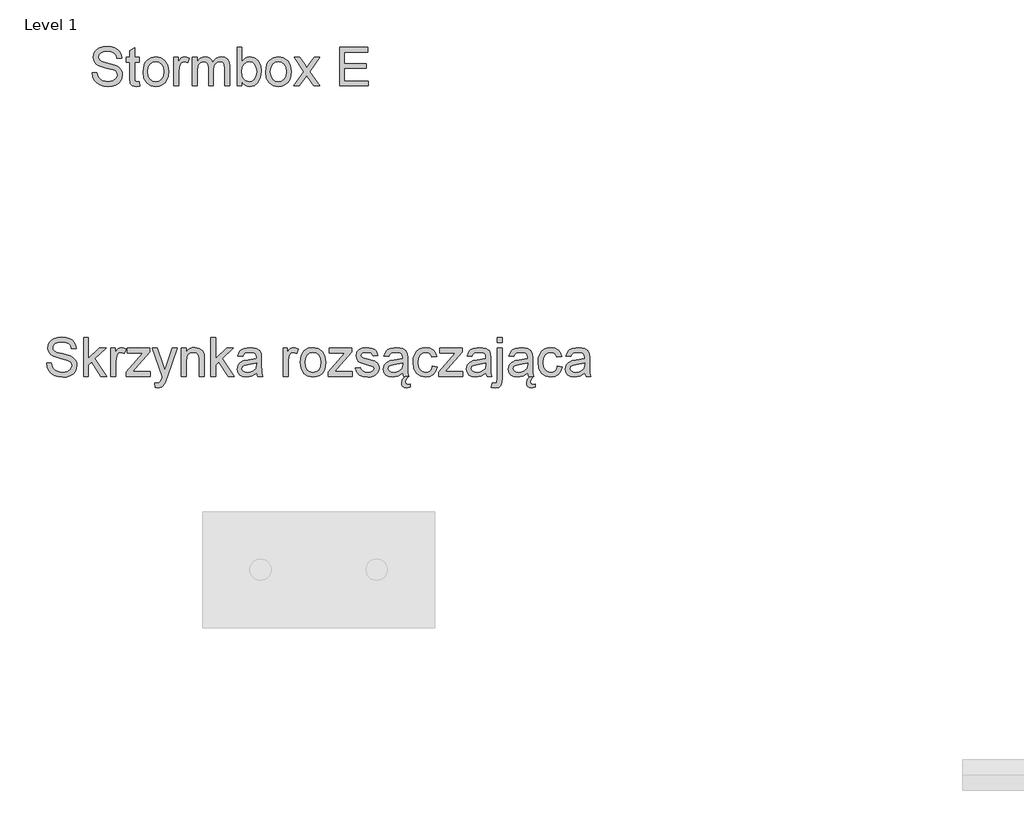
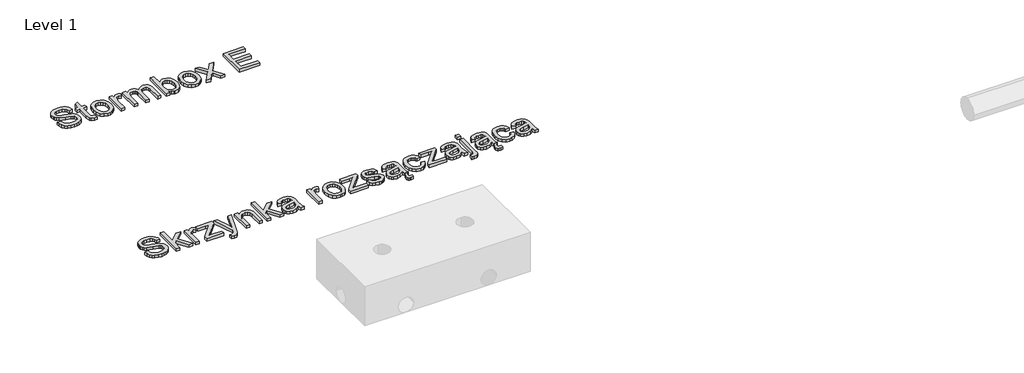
# One storey, part 5 of 5: 2 proxies.
"""IFC4 building model written with IfcOpenShell, lengths in millimetres."""

from ifc_helpers import new_model, si_unit, origin, origin_with_axes, place, context, project, spatial, polyline, outline, extrude, element, save

model = new_model("IFC4")

# Units and contexts
model_context = context("Model", 3, world=origin())
ifc_project = project(units=[si_unit("LENGTHUNIT", "METRE", prefix="MILLI")], contexts=[model_context])

# Site, building, storey
site = spatial("IfcSite", under=ifc_project)
building = spatial("IfcBuilding", under=site)
storey = spatial("IfcBuildingStorey", under=building, Name="Level 1", Elevation=0.0)

# Proxies
placement = place(None, origin())
element("IfcBuildingElementProxy", 1, Name="200mm Arial", ObjectType="200mm Arial", at=placement, inside=storey, context=model_context, shape_type="SweptSolid", body=[
    extrude(outline(polyline([(-7340.1100864, 955.1141403), (-7314.9960089, 955.1141403), (-7306.902605, 929.9755373), (-7298.7724129, 921.0850557), (-7287.1350791, 914.0830351), (-7272.9103087, 909.5396924), (-7257.0178065, 908.0252449), (-7230.7755575, 912.6115071), (-7213.8284602, 925.2175968), (-7208.2611794, 942.0665922), (-7212.4305087, 957.7383652), (-7218.7826044, 963.9371768), (-7229.5002332, 969.142707), (-7266.0677036, 978.7321644), (-7305.431077, 991.1175249), (-7317.9329335, 999.566548), (-7326.7927582, 1009.8059302), (-7332.0718649, 1021.6149423), (-7333.8315671, 1034.772855), (-7331.6549319, 1049.4820034), (-7325.1250265, 1063.1978705), (-7314.4135291, 1074.8229415), (-7299.6921179, 1083.2597019), (-7282.0215194, 1088.3916558), (-7262.46246, 1090.102307), (-7241.2724571, 1088.311948), (-7222.7312045, 1082.9408709), (-7207.5008899, 1074.0994402), (-7196.2437009, 1061.8980207), (-7189.1190529, 1047.0969018), (-7186.2863615, 1030.4563729), (-7211.4004391, 1030.4563729), (-7216.0112267, 1045.4414328), (-7225.6252095, 1056.2571635), (-7240.6470577, 1062.805463), (-7261.4814413, 1064.9882295), (-7282.8063343, 1062.8299885), (-7297.435775, 1056.3552653), (-7305.8970609, 1046.8271217), (-7308.7174895, 1035.508619), (-7306.718664, 1025.8578479), (-7300.7221875, 1018.0955378), (-7286.5464679, 1011.1548309), (-7259.7156078, 1004.0669711), (-7215.2754628, 991.4608814), (-7200.9587218, 982.3496707), (-7190.9707256, 971.1047443), (-7185.1030078, 957.8487298), (-7183.1471018, 942.7042543), (-7185.3973134, 927.2225537), (-7192.147948, 912.660558), (-7203.1230942, 900.1280447), (-7218.0468404, 890.7347911), (-7235.9933504, 884.8670733), (-7256.0367878, 882.9111674), (-7280.6419619, 885.0203575), (-7300.8938658, 891.3479278), (-7317.0254912, 901.9184038), (-7329.2698303, 916.7563109), (-7337.1302423, 934.8315796), (-7340.1100864, 955.1141403)])), origin_with_axes(), (0.0, 0.0, 1.0), 20.0),
    extrude(outline(polyline([(-7148.6152452, 886.050427), (-7148.6152452, 1086.9630473), (-7123.5011677, 1086.9630473), (-7123.5011677, 979.0019445), (-7067.190697, 1033.5956326), (-7032.4626366, 1033.5956326), (-7089.4598204, 978.3152314), (-7029.3233769, 886.050427), (-7058.6558347, 886.050427), (-7107.4615127, 960.8530994), (-7123.5011677, 945.3039537), (-7123.5011677, 886.050427), (-7148.6152452, 886.050427)])), origin_with_axes(), (0.0, 0.0, 1.0), 20.0),
    extrude(outline(polyline([(-7007.3485591, 886.050427), (-7007.3485591, 1033.5956326), (-6985.3737412, 1033.5956326), (-6985.3737412, 1011.7679675), (-6969.7755446, 1031.8788499), (-6954.0792462, 1036.7348923), (-6941.5712583, 1034.7973804), (-6928.8670668, 1028.9848449), (-6937.2547763, 1006.4704668), (-6954.913112, 1011.6208147), (-6969.113357, 1006.6666705), (-6978.1632541, 992.9324094), (-6982.2344815, 963.5999516), (-6982.2344815, 886.050427), (-7007.3485591, 886.050427)])), origin_with_axes(), (0.0, 0.0, 1.0), 20.0),
    extrude(outline(polyline([(-6928.8670668, 886.050427), (-6928.8670668, 909.6929766), (-6842.1940687, 1008.481555), (-6867.8477065, 1008.481555), (-6922.5885474, 1008.481555), (-6922.5885474, 1033.5956326), (-6806.4359388, 1033.5956326), (-6806.4359388, 1012.2584769), (-6883.2987503, 924.6044601), (-6895.0709741, 911.1645046), (-6866.032822, 911.1645046), (-6803.2966791, 911.1645046), (-6803.2966791, 886.050427), (-6928.8670668, 886.050427)])), origin_with_axes(), (0.0, 0.0, 1.0), 20.0),
    extrude(outline(polyline([(-6778.1826015, 829.5437526), (-6781.3218612, 853.7258624), (-6768.5686187, 851.5185704), (-6756.6492421, 854.2899481), (-6749.3406531, 862.01547), (-6742.4735225, 880.5076717), (-6740.5114852, 886.5899873), (-6793.8789, 1033.5956326), (-6767.3913964, 1033.5956326), (-6739.0890082, 951.680575), (-6729.2297707, 918.9145519), (-6719.3705333, 947.8546022), (-6690.2833302, 1033.5956326), (-6663.9920302, 1033.5956326), (-6715.3483568, 882.5187599), (-6728.6902105, 849.7527369), (-6743.2583375, 832.0453502), (-6762.8296596, 826.4044929), (-6778.1826015, 829.5437526)])), origin_with_axes(), (0.0, 0.0, 1.0), 20.0),
    extrude(outline(polyline([(-6643.1944348, 886.050427), (-6643.1944348, 1033.5956326), (-6618.0803572, 1033.5956326), (-6618.0803572, 1012.9942408), (-6609.3554226, 1023.3807758), (-6598.8769171, 1030.7997294), (-6586.6448408, 1035.2511016), (-6572.6591936, 1036.7348923), (-6548.9430676, 1031.9524263), (-6532.7562598, 1019.3953876), (-6525.2269417, 1000.9277114), (-6523.9025665, 976.6474997), (-6523.9025665, 886.050427), (-6549.016644, 886.050427), (-6549.016644, 973.2629854), (-6551.910649, 995.4830579), (-6562.1377685, 1007.2307563), (-6579.3791714, 1011.6208147), (-6594.0883198, 1009.1560054), (-6606.6269645, 1001.7615773), (-6615.2170091, 987.4754931), (-6618.0803572, 964.3357156), (-6618.0803572, 886.050427), (-6643.1944348, 886.050427)])), origin_with_axes(), (0.0, 0.0, 1.0), 20.0),
    extrude(outline(polyline([(-6489.3707099, 886.050427), (-6489.3707099, 1086.9630473), (-6464.2566323, 1086.9630473), (-6464.2566323, 979.0019445), (-6407.9461616, 1033.5956326), (-6373.2181013, 1033.5956326), (-6430.215285, 978.3152314), (-6370.0788416, 886.050427), (-6399.4112993, 886.050427), (-6448.2169773, 960.8530994), (-6464.2566323, 945.3039537), (-6464.2566323, 886.050427), (-6489.3707099, 886.050427)])), origin_with_axes(), (0.0, 0.0, 1.0), 20.0),
    extrude(outline(polyline([(-6253.926233, 904.8859852), (-6278.280021, 887.8653116), (-6305.1844576, 882.9111674), (-6326.1721254, 885.8910115), (-6341.6538261, 894.830544), (-6351.2003638, 908.4053896), (-6354.3825431, 925.2911732), (-6349.5755517, 945.1568009), (-6336.9449365, 959.5777751), (-6319.3601772, 967.8183318), (-6297.630614, 971.5952537), (-6254.0733858, 980.2282178), (-6253.926233, 985.8200241), (-6255.6552783, 997.0281623), (-6260.8424145, 1004.3612767), (-6272.44296, 1009.8059302), (-6288.6052424, 1011.6208147), (-6303.5657768, 1010.4129355), (-6314.0136255, 1006.7892979), (-6321.1382735, 1000.0877142), (-6326.1292059, 989.6459969), (-6351.2432834, 992.7852566), (-6340.3785018, 1017.3107229), (-6331.1201383, 1025.5635424), (-6318.5017858, 1031.6826462), (-6285.3678808, 1036.7348923), (-6254.9317771, 1032.2712574), (-6237.7394252, 1021.0631193), (-6230.0384287, 1004.0179202), (-6228.8121554, 982.0431023), (-6228.8121554, 950.7976582), (-6227.5368312, 907.1668536), (-6222.533636, 886.050427), (-6247.6477136, 886.050427), (-6253.926233, 904.8859852)]), holes=[polyline([(-6253.926233, 955.1141403), (-6294.4423034, 947.4131438), (-6316.0492392, 943.3419164), (-6325.8349003, 936.7200405), (-6329.2684656, 927.0570068), (-6327.3983988, 919.5890023), (-6321.7881983, 913.4698984), (-6312.5604916, 909.3864083), (-6299.837906, 908.0252449), (-6286.3488995, 909.5274297), (-6274.4295228, 914.0339841), (-6258.0465113, 928.5775857), (-6254.0733858, 948.001755), (-6253.926233, 955.1141403)])]), origin_with_axes(), (0.0, 0.0, 1.0), 20.0),
    extrude(outline(polyline([(-6115.7988065, 886.050427), (-6115.7988065, 1033.5956326), (-6093.8239887, 1033.5956326), (-6093.8239887, 1011.7679675), (-6078.2257921, 1031.8788499), (-6062.5294936, 1036.7348923), (-6050.0215058, 1034.7973804), (-6037.3173142, 1028.9848449), (-6045.7050237, 1006.4704668), (-6063.3633595, 1011.6208147), (-6077.5636045, 1006.6666705), (-6086.6135015, 992.9324094), (-6090.684729, 963.5999516), (-6090.684729, 886.050427), (-6115.7988065, 886.050427)])), origin_with_axes(), (0.0, 0.0, 1.0), 20.0),
    extrude(outline(polyline([(-6027.8995351, 959.8230298), (-6022.4671443, 995.3972187), (-6015.6766558, 1009.2203847), (-6006.1699719, 1020.4009317), (-5986.0345641, 1032.6514021), (-5961.9260306, 1036.7348923), (-5935.5427602, 1031.762354), (-5914.4692533, 1016.8447391), (-5900.6552844, 993.1592699), (-5896.050628, 961.883169), (-5898.0862418, 936.5115741), (-5904.1930829, 917.1977693), (-5914.1933418, 902.7338755), (-5927.9092088, 891.9120135), (-5944.2002498, 885.1613789), (-5961.9260306, 882.9111674), (-5988.6281321, 887.8653116), (-6009.6771136, 902.7277442), (-6023.3439297, 926.909854), (-6027.8995351, 959.8230298)]), holes=[polyline([(-6002.7854576, 959.8720807), (-5999.8791898, 937.1431048), (-5991.1603865, 920.9501657), (-5978.039262, 911.2564751), (-5961.9260306, 908.0252449), (-5945.8863757, 911.2748692), (-5932.7897766, 921.0237421), (-5924.0709733, 937.431279), (-5921.1647056, 960.6568957), (-5924.0893674, 982.723684), (-5932.863353, 998.695894), (-5945.9783462, 1008.3895845), (-5961.9260306, 1011.6208147), (-5978.039262, 1008.4018473), (-5991.1603865, 998.7449449), (-5999.8791898, 982.5887939), (-6002.7854576, 959.8720807)])]), origin_with_axes(), (0.0, 0.0, 1.0), 20.0),
    extrude(outline(polyline([(-5883.4935893, 886.050427), (-5883.4935893, 909.6929766), (-5796.8205912, 1008.481555), (-5822.474229, 1008.481555), (-5877.2150699, 1008.481555), (-5877.2150699, 1033.5956326), (-5761.0624613, 1033.5956326), (-5761.0624613, 1012.2584769), (-5837.9252728, 924.6044601), (-5849.6974967, 911.1645046), (-5820.6593445, 911.1645046), (-5757.9232016, 911.1645046), (-5757.9232016, 886.050427), (-5883.4935893, 886.050427)])), origin_with_axes(), (0.0, 0.0, 1.0), 20.0),
    extrude(outline(polyline([(-5742.2269031, 930.0000627), (-5717.1128256, 933.1393224), (-5713.1519628, 922.3971682), (-5705.4877545, 914.499968), (-5694.07115, 909.6439257), (-5678.8530981, 908.0252449), (-5663.8189872, 909.5090356), (-5653.2485112, 913.9604077), (-5646.9945173, 920.4106054), (-5644.9098527, 927.8908726), (-5647.00678, 934.2920193), (-5653.2975622, 939.1725871), (-5679.1474037, 946.3340233), (-5716.9656728, 958.621282), (-5726.536736, 964.7955681), (-5733.4713116, 972.9686798), (-5739.0876434, 993.226715), (-5734.5749576, 1011.9396458), (-5722.2631735, 1026.2379927), (-5706.2970949, 1033.669209), (-5684.6901591, 1036.7348923), (-5654.131428, 1031.8052735), (-5642.7025607, 1026.0050007), (-5634.7072587, 1018.4634198), (-5626.0742945, 995.9245163), (-5651.1883721, 992.7852566), (-5654.3582886, 1000.6885881), (-5660.6306766, 1006.6421451), (-5682.7281218, 1011.6208147), (-5697.149096, 1010.4313296), (-5706.7630788, 1006.8628743), (-5712.1709441, 1001.7125263), (-5713.9735659, 995.7773635), (-5710.981459, 988.4687745), (-5701.6127309, 982.9260191), (-5679.9812695, 977.5794674), (-5643.1194936, 965.7581927), (-5626.0007181, 952.367288), (-5621.3470109, 942.5203133), (-5619.7957751, 930.539623), (-5621.616791, 918.1542625), (-5627.0798386, 906.504666), (-5635.9764516, 896.5044071), (-5648.0981633, 889.0670594), (-5662.7398667, 884.4501404), (-5679.1964546, 882.9111674), (-5704.5189986, 885.8787488), (-5722.9989375, 894.7814931), (-5735.3352471, 909.5212983), (-5742.2269031, 930.0000627)])), origin_with_axes(), (0.0, 0.0, 1.0), 20.0),
    extrude(outline(polyline([(-5468.4245969, 886.050427), (-5480.5156518, 873.9103212), (-5484.8076084, 859.2686178), (-5481.7419251, 849.3112785), (-5471.8091112, 845.240051), (-5465.5305918, 846.1229678), (-5459.6935308, 848.4774126), (-5459.6935308, 831.1624334), (-5477.3028157, 826.4044929), (-5488.8543103, 828.4155811), (-5497.094867, 833.9583365), (-5502.0244857, 842.0762659), (-5503.6431665, 851.9109779), (-5498.7380733, 869.7409919), (-5484.8566593, 886.050427), (-5468.4245969, 886.050427)])), origin_with_axes(), (0.0, 0.0, 1.0), 20.0),
    extrude(outline(polyline([(-5497.3646471, 904.8859852), (-5521.7184352, 887.8653116), (-5548.6228718, 882.9111674), (-5569.6105396, 885.8910115), (-5585.0922403, 894.830544), (-5594.638778, 908.4053896), (-5597.8209573, 925.2911732), (-5593.0139659, 945.1568009), (-5580.3833507, 959.5777751), (-5562.7985913, 967.8183318), (-5541.0690282, 971.5952537), (-5497.5117999, 980.2282178), (-5497.3646471, 985.8200241), (-5499.0936925, 997.0281623), (-5504.2808286, 1004.3612767), (-5515.8813742, 1009.8059302), (-5532.0436566, 1011.6208147), (-5547.004191, 1010.4129355), (-5557.4520397, 1006.7892979), (-5564.5766877, 1000.0877142), (-5569.5676201, 989.6459969), (-5594.6816976, 992.7852566), (-5583.816916, 1017.3107229), (-5574.5585525, 1025.5635424), (-5561.9402, 1031.6826462), (-5528.806295, 1036.7348923), (-5498.3701913, 1032.2712574), (-5481.1778394, 1021.0631193), (-5473.4768429, 1004.0179202), (-5472.2505696, 982.0431023), (-5472.2505696, 950.7976582), (-5470.9752454, 907.1668536), (-5465.9720502, 886.050427), (-5491.0861278, 886.050427), (-5497.3646471, 904.8859852)]), holes=[polyline([(-5497.3646471, 955.1141403), (-5537.8807175, 947.4131438), (-5559.4876534, 943.3419164), (-5569.2733145, 936.7200405), (-5572.7068798, 927.0570068), (-5570.8368129, 919.5890023), (-5565.2266125, 913.4698984), (-5555.9989058, 909.3864083), (-5543.2763201, 908.0252449), (-5529.7873136, 909.5274297), (-5517.867937, 914.0339841), (-5501.4849255, 928.5775857), (-5497.5117999, 948.001755), (-5497.3646471, 955.1141403)])]), origin_with_axes(), (0.0, 0.0, 1.0), 20.0),
    extrude(outline(polyline([(-5343.5409222, 939.4178418), (-5318.4268447, 936.2785821), (-5325.4288653, 913.9420136), (-5338.586778, 897.0623614), (-5356.6620467, 886.4489659), (-5378.4161354, 882.9111674), (-5405.1304996, 887.8469175), (-5426.0200655, 902.6541678), (-5439.5029407, 926.6829934), (-5443.9972324, 959.2834696), (-5442.0781146, 981.6323008), (-5436.3207614, 1001.0012878), (-5426.6332022, 1016.642404), (-5412.9234665, 1027.8076225), (-5396.5220609, 1034.5030748), (-5378.7594919, 1036.7348923), (-5357.5388321, 1033.669209), (-5340.5733408, 1024.4721591), (-5328.4025781, 1009.634252), (-5321.5661044, 989.6459969), (-5346.6801819, 986.5067372), (-5351.2357873, 997.4634893), (-5358.3297784, 1005.3177699), (-5367.5697479, 1010.0450535), (-5378.5632882, 1011.6208147), (-5394.7930155, 1008.5183432), (-5407.6750167, 999.2109288), (-5416.0811203, 983.1957992), (-5418.8831548, 959.9701826), (-5416.142434, 936.4318663), (-5407.9202714, 920.3615545), (-5395.2712621, 911.1093223), (-5379.2500012, 908.0252449), (-5366.2453727, 909.950494), (-5355.5829262, 915.7262413), (-5347.8267475, 925.4996397), (-5343.5409222, 939.4178418)])), origin_with_axes(), (0.0, 0.0, 1.0), 20.0),
    extrude(outline(polyline([(-5312.1483253, 886.050427), (-5312.1483253, 909.6929766), (-5225.4753272, 1008.481555), (-5251.128965, 1008.481555), (-5305.8698059, 1008.481555), (-5305.8698059, 1033.5956326), (-5189.7171973, 1033.5956326), (-5189.7171973, 1012.2584769), (-5266.5800088, 924.6044601), (-5278.3522327, 911.1645046), (-5249.3140805, 911.1645046), (-5186.5779376, 911.1645046), (-5186.5779376, 886.050427), (-5312.1483253, 886.050427)])), origin_with_axes(), (0.0, 0.0, 1.0), 20.0),
    extrude(outline(polyline([(-5067.2860693, 904.8859852), (-5091.6398574, 887.8653116), (-5118.544294, 882.9111674), (-5139.5319618, 885.8910115), (-5155.0136624, 894.830544), (-5164.5602002, 908.4053896), (-5167.7423795, 925.2911732), (-5162.9353881, 945.1568009), (-5150.3047729, 959.5777751), (-5132.7200135, 967.8183318), (-5110.9904503, 971.5952537), (-5067.4332221, 980.2282178), (-5067.2860693, 985.8200241), (-5069.0151147, 997.0281623), (-5074.2022508, 1004.3612767), (-5085.8027964, 1009.8059302), (-5101.9650787, 1011.6208147), (-5116.9256132, 1010.4129355), (-5127.3734619, 1006.7892979), (-5134.4981098, 1000.0877142), (-5139.4890422, 989.6459969), (-5164.6031198, 992.7852566), (-5153.7383382, 1017.3107229), (-5144.4799746, 1025.5635424), (-5131.8616222, 1031.6826462), (-5098.7277172, 1036.7348923), (-5068.2916134, 1032.2712574), (-5051.0992615, 1021.0631193), (-5043.3982651, 1004.0179202), (-5042.1719918, 982.0431023), (-5042.1719918, 950.7976582), (-5040.8966675, 907.1668536), (-5035.8934724, 886.050427), (-5061.0075499, 886.050427), (-5067.2860693, 904.8859852)]), holes=[polyline([(-5067.2860693, 955.1141403), (-5107.8021397, 947.4131438), (-5129.4090756, 943.3419164), (-5139.1947366, 936.7200405), (-5142.6283019, 927.0570068), (-5140.7582351, 919.5890023), (-5135.1480347, 913.4698984), (-5125.920328, 909.3864083), (-5113.1977423, 908.0252449), (-5099.7087358, 909.5274297), (-5087.7893592, 914.0339841), (-5071.4063477, 928.5775857), (-5067.4332221, 948.001755), (-5067.2860693, 955.1141403)])]), origin_with_axes(), (0.0, 0.0, 1.0), 20.0),
    extrude(outline(polyline([(-5039.2779867, 829.4456507), (-5033.980486, 853.3334549), (-5022.4535168, 851.5185704), (-5011.2944296, 856.4972401), (-5007.6401352, 881.3905884), (-5007.6401352, 1033.5956326), (-4982.5260576, 1033.5956326), (-4982.5260576, 878.1532269), (-4984.3041539, 855.0992885), (-4989.6384429, 840.2859068), (-5001.6559214, 829.8748464), (-5019.6576137, 826.4044929), (-5039.2779867, 829.4456507)])), origin_with_axes(), (0.0, 0.0, 1.0), 20.0),
    extrude(outline(polyline([(-5007.6401352, 1061.8489698), (-5007.6401352, 1086.9630473), (-4982.5260576, 1086.9630473), (-4982.5260576, 1061.8489698), (-5007.6401352, 1061.8489698)])), origin_with_axes(), (0.0, 0.0, 1.0), 20.0),
    extrude(outline(polyline([(-4850.6771506, 904.8859852), (-4875.0309386, 887.8653116), (-4901.9353752, 882.9111674), (-4922.923043, 885.8910115), (-4938.4047437, 894.830544), (-4947.9512814, 908.4053896), (-4951.1334607, 925.2911732), (-4946.3264693, 945.1568009), (-4933.6958541, 959.5777751), (-4916.1110948, 967.8183318), (-4894.3815316, 971.5952537), (-4850.8243034, 980.2282178), (-4850.6771506, 985.8200241), (-4852.4061959, 997.0281623), (-4857.5933321, 1004.3612767), (-4869.1938776, 1009.8059302), (-4885.35616, 1011.6208147), (-4900.3166944, 1010.4129355), (-4910.7645431, 1006.7892979), (-4917.8891911, 1000.0877142), (-4922.8801235, 989.6459969), (-4947.994201, 992.7852566), (-4937.1294194, 1017.3107229), (-4927.8710559, 1025.5635424), (-4915.2527034, 1031.6826462), (-4882.1187984, 1036.7348923), (-4851.6826947, 1032.2712574), (-4834.4903428, 1021.0631193), (-4826.7893463, 1004.0179202), (-4825.563073, 982.0431023), (-4825.563073, 950.7976582), (-4824.2877488, 907.1668536), (-4819.2845536, 886.050427), (-4844.3986312, 886.050427), (-4850.6771506, 904.8859852)]), holes=[polyline([(-4850.6771506, 955.1141403), (-4891.193221, 947.4131438), (-4912.8001568, 943.3419164), (-4922.5858179, 936.7200405), (-4926.0193832, 927.0570068), (-4924.1493164, 919.5890023), (-4918.5391159, 913.4698984), (-4909.3114092, 909.3864083), (-4896.5888236, 908.0252449), (-4883.0998171, 909.5274297), (-4871.1804404, 914.0339841), (-4854.7974289, 928.5775857), (-4850.8243034, 948.001755), (-4850.6771506, 955.1141403)])]), origin_with_axes(), (0.0, 0.0, 1.0), 20.0),
    extrude(outline(polyline([(-4821.7371003, 886.050427), (-4833.8281552, 873.9103212), (-4838.1201118, 859.2686178), (-4835.0544285, 849.3112785), (-4825.1216146, 845.240051), (-4818.8430952, 846.1229678), (-4813.0060342, 848.4774126), (-4813.0060342, 831.1624334), (-4830.6153191, 826.4044929), (-4842.1668137, 828.4155811), (-4850.4073704, 833.9583365), (-4855.3369892, 842.0762659), (-4856.9556699, 851.9109779), (-4852.0505767, 869.7409919), (-4838.1691627, 886.050427), (-4821.7371003, 886.050427)])), origin_with_axes(), (0.0, 0.0, 1.0), 20.0),
    extrude(outline(polyline([(-4696.8534256, 939.4178418), (-4671.7393481, 936.2785821), (-4678.7413687, 913.9420136), (-4691.8992814, 897.0623614), (-4709.9745501, 886.4489659), (-4731.7286388, 882.9111674), (-4758.443003, 887.8469175), (-4779.332569, 902.6541678), (-4792.8154441, 926.6829934), (-4797.3097358, 959.2834696), (-4795.390618, 981.6323008), (-4789.6332648, 1001.0012878), (-4779.9457056, 1016.642404), (-4766.2359699, 1027.8076225), (-4749.8345643, 1034.5030748), (-4732.0719953, 1036.7348923), (-4710.8513356, 1033.669209), (-4693.8858442, 1024.4721591), (-4681.7150815, 1009.634252), (-4674.8786078, 989.6459969), (-4699.9926853, 986.5067372), (-4704.5482907, 997.4634893), (-4711.6422818, 1005.3177699), (-4720.8822513, 1010.0450535), (-4731.8757916, 1011.6208147), (-4748.1055189, 1008.5183432), (-4760.9875201, 999.2109288), (-4769.3936237, 983.1957992), (-4772.1956582, 959.9701826), (-4769.4549374, 936.4318663), (-4761.2327748, 920.3615545), (-4748.5837655, 911.1093223), (-4732.5625046, 908.0252449), (-4719.5578761, 909.950494), (-4708.8954296, 915.7262413), (-4701.1392509, 925.4996397), (-4696.8534256, 939.4178418)])), origin_with_axes(), (0.0, 0.0, 1.0), 20.0),
    extrude(outline(polyline([(-4555.5867395, 904.8859852), (-4579.9405276, 887.8653116), (-4606.8449641, 882.9111674), (-4627.832632, 885.8910115), (-4643.3143326, 894.830544), (-4652.8608704, 908.4053896), (-4656.0430496, 925.2911732), (-4651.2360582, 945.1568009), (-4638.6054431, 959.5777751), (-4621.0206837, 967.8183318), (-4599.2911205, 971.5952537), (-4555.7338923, 980.2282178), (-4555.5867395, 985.8200241), (-4557.3157849, 997.0281623), (-4562.502921, 1004.3612767), (-4574.1034666, 1009.8059302), (-4590.2657489, 1011.6208147), (-4605.2262834, 1010.4129355), (-4615.674132, 1006.7892979), (-4622.79878, 1000.0877142), (-4627.7897124, 989.6459969), (-4652.9037899, 992.7852566), (-4642.0390084, 1017.3107229), (-4632.7806448, 1025.5635424), (-4620.1622924, 1031.6826462), (-4587.0283873, 1036.7348923), (-4556.5922836, 1032.2712574), (-4539.3999317, 1021.0631193), (-4531.6989353, 1004.0179202), (-4530.472662, 982.0431023), (-4530.472662, 950.7976582), (-4529.1973377, 907.1668536), (-4524.1941426, 886.050427), (-4549.3082201, 886.050427), (-4555.5867395, 904.8859852)]), holes=[polyline([(-4555.5867395, 955.1141403), (-4596.1028099, 947.4131438), (-4617.7097457, 943.3419164), (-4627.4954068, 936.7200405), (-4630.9289721, 927.0570068), (-4629.0589053, 919.5890023), (-4623.4487049, 913.4698984), (-4614.2209982, 909.3864083), (-4601.4984125, 908.0252449), (-4588.009406, 909.5274297), (-4576.0900294, 914.0339841), (-4559.7070178, 928.5775857), (-4555.7338923, 948.001755), (-4555.5867395, 955.1141403)])]), origin_with_axes(), (0.0, 0.0, 1.0), 20.0),
])
element("IfcBuildingElementProxy", 2, Name="200mm Arial", ObjectType="200mm Arial", at=placement, inside=storey, context=model_context, shape_type="SweptSolid", body=[
    extrude(outline(polyline([(-7104.6656095, 2459.5263231), (-7079.551532, 2459.5263231), (-7071.4581281, 2434.3877201), (-7063.327936, 2425.4972385), (-7051.6906022, 2418.4952179), (-7037.4658317, 2413.9518752), (-7021.5733296, 2412.4374277), (-6995.3310806, 2417.0236899), (-6978.3839833, 2429.6297796), (-6972.8167025, 2446.478775), (-6976.9860317, 2462.150548), (-6983.3381275, 2468.3493596), (-6994.0557563, 2473.5548898), (-7030.6232266, 2483.1443471), (-7069.9866001, 2495.5297077), (-7082.4884566, 2503.9787308), (-7091.3482813, 2514.218113), (-7096.6273879, 2526.0271251), (-7098.3870901, 2539.1850377), (-7096.210455, 2553.8941862), (-7089.6805496, 2567.6100532), (-7078.9690522, 2579.2351243), (-7064.247641, 2587.6718847), (-7046.5770425, 2592.8038385), (-7027.0179831, 2594.5144898), (-7005.8279802, 2592.7241308), (-6987.2867276, 2587.3530537), (-6972.056413, 2578.511623), (-6960.799224, 2566.3102035), (-6953.674576, 2551.5090846), (-6950.8418846, 2534.8685557), (-6975.9559622, 2534.8685557), (-6980.5667498, 2549.8536156), (-6990.1807326, 2560.6693463), (-7005.2025808, 2567.2176458), (-7026.0369644, 2569.4004123), (-7047.3618574, 2567.2421712), (-7061.9912981, 2560.7674481), (-7070.452584, 2551.2393045), (-7073.2730126, 2539.9208017), (-7071.2741871, 2530.2700307), (-7065.2777106, 2522.5077206), (-7051.101991, 2515.5670137), (-7024.2711309, 2508.4791539), (-6979.8309858, 2495.8730642), (-6965.5142449, 2486.7618534), (-6955.5262487, 2475.5169271), (-6949.6585309, 2462.2609126), (-6947.7026249, 2447.1164371), (-6949.9528365, 2431.6347365), (-6956.7034711, 2417.0727408), (-6967.6786173, 2404.5402275), (-6982.6023635, 2395.1469739), (-7000.5488735, 2389.2792561), (-7020.5923109, 2387.3233501), (-7045.197485, 2389.4325402), (-7065.4493888, 2395.7601106), (-7081.5810143, 2406.3305866), (-7093.8253534, 2421.1684937), (-7101.6857654, 2439.2437624), (-7104.6656095, 2459.5263231)])), origin_with_axes(), (0.0, 0.0, 1.0), 20.0),
    extrude(outline(polyline([(-6859.8033535, 2411.4073581), (-6856.6640939, 2389.7268458), (-6875.4506011, 2387.3233501), (-6896.4934512, 2391.4926794), (-6906.9903508, 2402.4310374), (-6910.0315086, 2430.9296293), (-6910.0315086, 2512.8937378), (-6928.8670668, 2512.8937378), (-6928.8670668, 2538.0078154), (-6910.0315086, 2538.0078154), (-6910.0315086, 2573.8640472), (-6884.9174311, 2588.6283779), (-6884.9174311, 2538.0078154), (-6859.8033535, 2538.0078154), (-6859.8033535, 2512.8937378), (-6884.9174311, 2512.8937378), (-6884.9174311, 2431.6653933), (-6883.5930559, 2418.7159471), (-6879.3010993, 2414.1296849), (-6870.7417115, 2412.4374277), (-6859.8033535, 2411.4073581)])), origin_with_axes(), (0.0, 0.0, 1.0), 20.0),
    extrude(outline(polyline([(-6840.9677954, 2464.2352126), (-6835.5354046, 2499.8094015), (-6828.7449161, 2513.6325675), (-6819.2382322, 2524.8131145), (-6799.1028243, 2537.0635849), (-6774.9942909, 2541.1470751), (-6748.6110205, 2536.1745368), (-6727.5375135, 2521.2569219), (-6713.7235446, 2497.5714527), (-6709.1188883, 2466.2953518), (-6711.154502, 2440.9237568), (-6717.2613431, 2421.6099521), (-6727.261602, 2407.1460583), (-6740.9774691, 2396.3241963), (-6757.2685101, 2389.5735617), (-6774.9942909, 2387.3233501), (-6801.6963924, 2392.2774943), (-6822.7453739, 2407.1399269), (-6836.41219, 2431.3220368), (-6840.9677954, 2464.2352126)]), holes=[polyline([(-6815.8537179, 2464.2842635), (-6812.9474501, 2441.5552876), (-6804.2286468, 2425.3623484), (-6791.1075223, 2415.6686579), (-6774.9942909, 2412.4374277), (-6758.9546359, 2415.687052), (-6745.8580369, 2425.4359248), (-6737.1392336, 2441.8434618), (-6734.2329659, 2465.0690785), (-6737.1576277, 2487.1358668), (-6745.9316133, 2503.1080768), (-6759.0466064, 2512.8017673), (-6774.9942909, 2516.0329975), (-6791.1075223, 2512.8140301), (-6804.2286468, 2503.1571277), (-6812.9474501, 2487.0009767), (-6815.8537179, 2464.2842635)])]), origin_with_axes(), (0.0, 0.0, 1.0), 20.0),
    extrude(outline(polyline([(-6680.8655511, 2390.4626098), (-6680.8655511, 2538.0078154), (-6658.8907332, 2538.0078154), (-6658.8907332, 2516.1801503), (-6643.2925366, 2536.2910327), (-6627.5962382, 2541.1470751), (-6615.0882504, 2539.2095632), (-6602.3840588, 2533.3970277), (-6610.7717683, 2510.8826496), (-6628.430104, 2516.0329975), (-6642.6303491, 2511.0788533), (-6651.6802461, 2497.3445922), (-6655.7514736, 2468.0121344), (-6655.7514736, 2390.4626098), (-6680.8655511, 2390.4626098)])), origin_with_axes(), (0.0, 0.0, 1.0), 20.0),
    extrude(outline(polyline([(-6586.6877603, 2390.4626098), (-6586.6877603, 2538.0078154), (-6561.5736828, 2538.0078154), (-6561.5736828, 2513.7276037), (-6554.0198392, 2524.8805595), (-6544.3077545, 2533.6177569), (-6532.7685226, 2539.2647455), (-6519.7332372, 2541.1470751), (-6505.7659841, 2539.2279573), (-6494.5701087, 2533.4706041), (-6486.2069247, 2524.2551601), (-6480.7377457, 2511.9617701), (-6471.5836154, 2524.730341), (-6461.1418981, 2533.8507488), (-6449.4125938, 2539.3229935), (-6436.3957026, 2541.1470751), (-6417.5172248, 2538.1120486), (-6403.5561031, 2529.0069692), (-6394.9292703, 2513.5865823), (-6392.0536594, 2491.605633), (-6392.0536594, 2390.4626098), (-6417.1677369, 2390.4626098), (-6417.1677369, 2480.8144278), (-6419.4976563, 2501.7837016), (-6427.9344167, 2512.1089229), (-6442.2818145, 2516.0329975), (-6455.8873169, 2513.5191372), (-6466.9789591, 2505.9775563), (-6474.3549931, 2492.89322), (-6476.8136711, 2473.7510935), (-6476.8136711, 2390.4626098), (-6501.9277486, 2390.4626098), (-6501.9277486, 2483.610331), (-6503.3808825, 2497.810576), (-6507.7402842, 2507.9395936), (-6515.4106238, 2514.0096465), (-6526.7965715, 2516.0329975), (-6545.386875, 2510.6373949), (-6552.7445149, 2503.9909935), (-6557.74771, 2494.8429946), (-6561.5736828, 2464.8728747), (-6561.5736828, 2390.4626098), (-6586.6877603, 2390.4626098)])), origin_with_axes(), (0.0, 0.0, 1.0), 20.0),
    extrude(outline(polyline([(-6329.2684656, 2390.4626098), (-6354.3825431, 2390.4626098), (-6354.3825431, 2591.3752301), (-6329.2684656, 2591.3752301), (-6329.2684656, 2516.8668634), (-6311.6837062, 2535.0770221), (-6301.2910398, 2539.6295618), (-6289.8315157, 2541.1470751), (-6264.6683872, 2535.6778961), (-6245.146116, 2520.3004287), (-6233.153163, 2496.388099), (-6228.8121554, 2466.4425046), (-6233.3064471, 2432.9161921), (-6246.7893222, 2407.9737928), (-6266.5752422, 2392.4859608), (-6289.9786685, 2387.3233501), (-6301.8152717, 2388.9880162), (-6312.3091056, 2393.9820143), (-6321.4601702, 2402.3053444), (-6329.2684656, 2413.9580066), (-6329.2684656, 2390.4626098)]), holes=[polyline([(-6329.2684656, 2465.2652822), (-6327.5516829, 2444.3205339), (-6322.401335, 2430.1448144), (-6309.2434223, 2416.8642744), (-6292.1369095, 2412.4374277), (-6277.6423589, 2415.6993147), (-6265.2569984, 2425.4849758), (-6256.7589243, 2441.7330972), (-6253.926233, 2464.3823654), (-6256.6424284, 2487.3627274), (-6264.7910145, 2503.4269078), (-6276.790099, 2512.8814751), (-6291.057789, 2516.0329975), (-6305.5523396, 2512.7711105), (-6317.9377001, 2502.9854494), (-6326.4357742, 2487.0316336), (-6329.2684656, 2465.2652822)])]), origin_with_axes(), (0.0, 0.0, 1.0), 20.0),
    extrude(outline(polyline([(-6206.8373376, 2464.2352126), (-6201.4049468, 2499.8094015), (-6194.6144583, 2513.6325675), (-6185.1077744, 2524.8131145), (-6164.9723665, 2537.0635849), (-6140.8638331, 2541.1470751), (-6114.4805627, 2536.1745368), (-6093.4070557, 2521.2569219), (-6079.5930868, 2497.5714527), (-6074.9884305, 2466.2953518), (-6077.0240442, 2440.9237568), (-6083.1308853, 2421.6099521), (-6093.1311442, 2407.1460583), (-6106.8470113, 2396.3241963), (-6123.1380523, 2389.5735617), (-6140.8638331, 2387.3233501), (-6167.5659346, 2392.2774943), (-6188.6149161, 2407.1399269), (-6202.2817322, 2431.3220368), (-6206.8373376, 2464.2352126)]), holes=[polyline([(-6181.72326, 2464.2842635), (-6178.8169923, 2441.5552876), (-6170.098189, 2425.3623484), (-6156.9770645, 2415.6686579), (-6140.8638331, 2412.4374277), (-6124.8241781, 2415.687052), (-6111.7275791, 2425.4359248), (-6103.0087758, 2441.8434618), (-6100.102508, 2465.0690785), (-6103.0271699, 2487.1358668), (-6111.8011555, 2503.1080768), (-6124.9161486, 2512.8017673), (-6140.8638331, 2516.0329975), (-6156.9770645, 2512.8140301), (-6170.098189, 2503.1571277), (-6178.8169923, 2487.0009767), (-6181.72326, 2464.2842635)])]), origin_with_axes(), (0.0, 0.0, 1.0), 20.0),
    extrude(outline(polyline([(-6062.4313917, 2390.4626098), (-6008.7696714, 2464.6276201), (-6059.292132, 2538.0078154), (-6029.0767575, 2538.0078154), (-6004.698444, 2502.6911438), (-5993.3186276, 2486.0138267), (-5983.4593901, 2499.649986), (-5955.6965622, 2538.0078154), (-5925.4811877, 2538.0078154), (-5978.5542968, 2464.6276201), (-5927.443225, 2390.4626098), (-5957.6585995, 2390.4626098), (-5988.4135343, 2435.0499076), (-5994.0543916, 2443.1923625), (-6032.2160172, 2390.4626098), (-6062.4313917, 2390.4626098)])), origin_with_axes(), (0.0, 0.0, 1.0), 20.0),
    extrude(outline(polyline([(-5823.8476551, 2390.4626098), (-5823.8476551, 2591.3752301), (-5679.4417093, 2591.3752301), (-5679.4417093, 2566.2611526), (-5798.7335776, 2566.2611526), (-5798.7335776, 2506.6152184), (-5685.7202287, 2506.6152184), (-5685.7202287, 2481.5011409), (-5798.7335776, 2481.5011409), (-5798.7335776, 2415.5766874), (-5676.3024496, 2415.5766874), (-5676.3024496, 2390.4626098), (-5823.8476551, 2390.4626098)])), origin_with_axes(), (0.0, 0.0, 1.0), 20.0),
])

save(model, "model.ifc")
